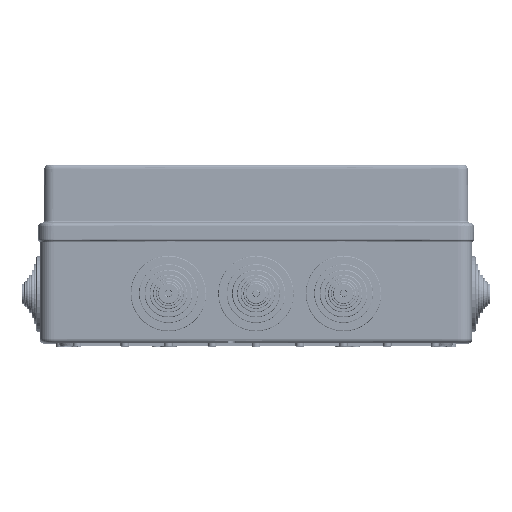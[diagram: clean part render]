
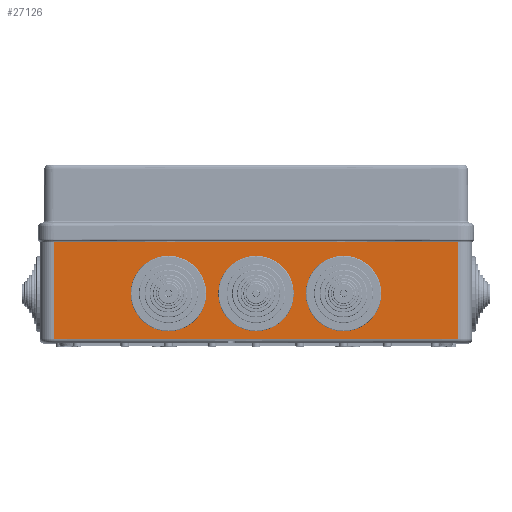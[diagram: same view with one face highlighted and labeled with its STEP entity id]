
A CAD part, top view. The second image highlights one B-rep face of the part: STEP entity #27126.
In plain terms, the highlighted planar face has unit normal (0, 0, 1).
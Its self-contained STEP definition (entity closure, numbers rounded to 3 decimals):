
#405=B_SPLINE_CURVE_WITH_KNOTS('',3,(#84046,#84047,#84048,#84049,#84050,
#84051,#84052,#84053,#84054,#84055,#84056,#84057,#84058),.UNSPECIFIED.,
 .F.,.F.,(4,3,3,3,4),(0.,0.017,0.084,0.352,
1.),.UNSPECIFIED.);
#20530=LINE('',#79990,#22978);
#21036=LINE('',#82630,#23484);
#21305=LINE('',#84045,#23753);
#22978=VECTOR('',#66949,1.);
#23484=VECTOR('',#68747,1.);
#23753=VECTOR('',#69696,1.);
#27126=ADVANCED_FACE('',(#30853,#30854,#30855,#30856),#29670,.F.);
#29670=PLANE('',#62105);
#30853=FACE_BOUND('',#33946,.T.);
#30854=FACE_BOUND('',#33947,.T.);
#30855=FACE_BOUND('',#33948,.T.);
#30856=FACE_BOUND('',#33949,.T.);
#33946=EDGE_LOOP('',(#40447));
#33947=EDGE_LOOP('',(#40448));
#33948=EDGE_LOOP('',(#40449));
#33949=EDGE_LOOP('',(#40450,#40451,#40452,#40453));
#40447=ORIENTED_EDGE('',*,*,#54843,.T.);
#40448=ORIENTED_EDGE('',*,*,#54844,.T.);
#40449=ORIENTED_EDGE('',*,*,#54845,.T.);
#40450=ORIENTED_EDGE('',*,*,#54846,.T.);
#40451=ORIENTED_EDGE('',*,*,#54366,.T.);
#40452=ORIENTED_EDGE('',*,*,#54847,.F.);
#40453=ORIENTED_EDGE('',*,*,#53439,.F.);
#49323=VERTEX_POINT('',#79984);
#49326=VERTEX_POINT('',#79989);
#49940=VERTEX_POINT('',#82631);
#49941=VERTEX_POINT('',#82632);
#50234=VERTEX_POINT('',#84040);
#50235=VERTEX_POINT('',#84042);
#50236=VERTEX_POINT('',#84044);
#53439=EDGE_CURVE('',#49326,#49323,#20530,.T.);
#54366=EDGE_CURVE('',#49940,#49941,#21036,.T.);
#54843=EDGE_CURVE('',#50234,#50234,#59172,.T.);
#54844=EDGE_CURVE('',#50235,#50235,#59173,.T.);
#54845=EDGE_CURVE('',#50236,#50236,#59174,.T.);
#54846=EDGE_CURVE('',#49326,#49940,#21305,.T.);
#54847=EDGE_CURVE('',#49323,#49941,#405,.T.);
#59172=CIRCLE('',#62102,24.65);
#59173=CIRCLE('',#62103,24.65);
#59174=CIRCLE('',#62104,24.65);
#62102=AXIS2_PLACEMENT_3D('',#84039,#69690,#69691);
#62103=AXIS2_PLACEMENT_3D('',#84041,#69692,#69693);
#62104=AXIS2_PLACEMENT_3D('',#84043,#69694,#69695);
#62105=AXIS2_PLACEMENT_3D('',#84059,#69697,#69698);
#66949=DIRECTION('',(0.,1.,0.));
#68747=DIRECTION('',(0.,1.,0.));
#69690=DIRECTION('',(0.,0.,-1.));
#69691=DIRECTION('',(-1.,0.,0.));
#69692=DIRECTION('',(0.,0.,-1.));
#69693=DIRECTION('',(-1.,0.,0.));
#69694=DIRECTION('',(0.,0.,-1.));
#69695=DIRECTION('',(-1.,0.,0.));
#69696=DIRECTION('',(1.,0.,0.));
#69697=DIRECTION('',(0.,0.,-1.));
#69698=DIRECTION('',(0.,1.,0.));
#79984=CARTESIAN_POINT('',(-143.3,71.3,193.));
#79989=CARTESIAN_POINT('',(-143.3,3.,193.));
#79990=CARTESIAN_POINT('',(-143.3,71.31,193.));
#82630=CARTESIAN_POINT('',(143.3,37.15,193.));
#82631=CARTESIAN_POINT('',(143.3,3.,193.));
#82632=CARTESIAN_POINT('',(143.3,71.3,193.));
#84039=CARTESIAN_POINT('',(62.,35.,193.));
#84040=CARTESIAN_POINT('',(37.35,35.,193.));
#84041=CARTESIAN_POINT('',(0.,35.,193.));
#84042=CARTESIAN_POINT('',(-24.65,35.,193.));
#84043=CARTESIAN_POINT('',(-62.,35.,193.));
#84044=CARTESIAN_POINT('',(-86.65,35.,193.));
#84045=CARTESIAN_POINT('',(0.,3.,193.));
#84046=CARTESIAN_POINT('',(-143.3,71.3,193.));
#84047=CARTESIAN_POINT('',(-141.7,71.3,193.));
#84048=CARTESIAN_POINT('',(-140.1,71.3,193.));
#84049=CARTESIAN_POINT('',(-138.5,71.3,193.));
#84050=CARTESIAN_POINT('',(-132.1,71.3,193.));
#84051=CARTESIAN_POINT('',(-125.7,71.3,193.));
#84052=CARTESIAN_POINT('',(-119.3,71.3,193.));
#84053=CARTESIAN_POINT('',(-93.7,71.3,193.));
#84054=CARTESIAN_POINT('',(-68.1,71.3,193.));
#84055=CARTESIAN_POINT('',(-42.5,71.3,193.));
#84056=CARTESIAN_POINT('',(19.433,71.3,193.));
#84057=CARTESIAN_POINT('',(81.367,71.3,193.));
#84058=CARTESIAN_POINT('',(143.3,71.3,193.));
#84059=CARTESIAN_POINT('',(0.,37.15,193.));
